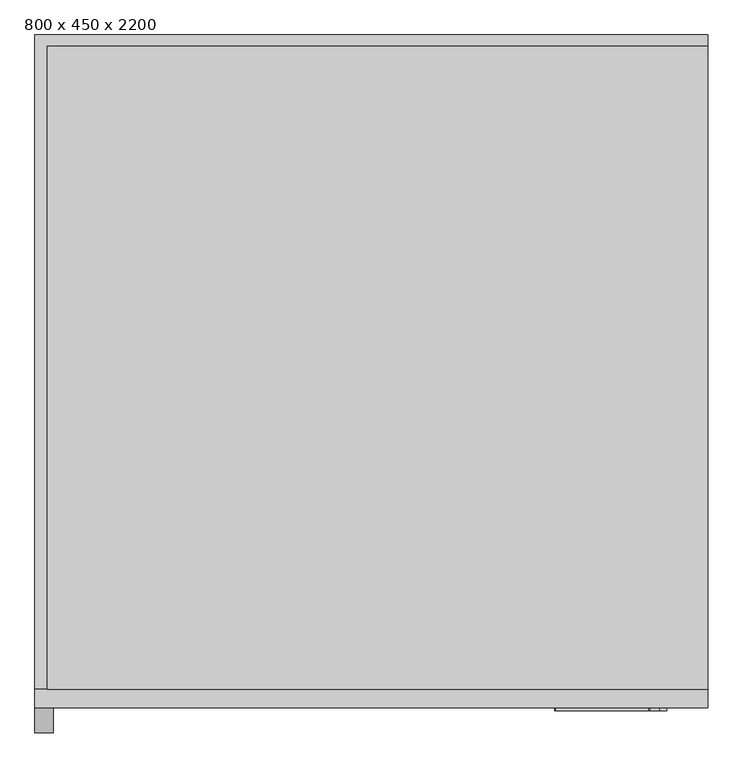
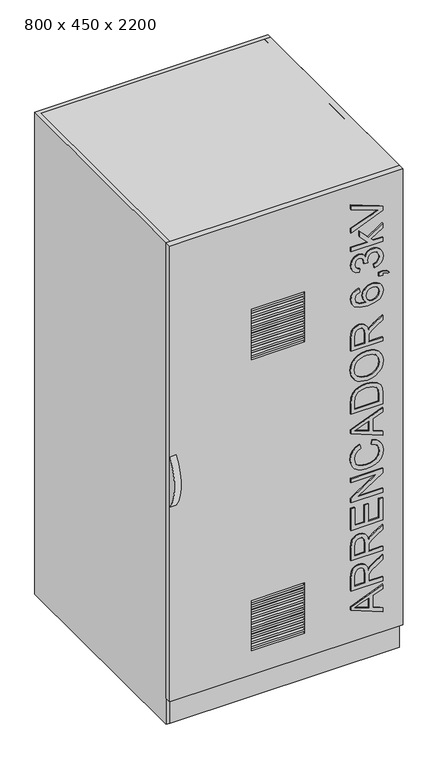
"""IFC4 building model written with IfcOpenShell, lengths in millimetres: furniture geometry, Arrencador MT Solcon : 800 x 450 x 2200."""

from ifc_helpers import new_model, si_unit, point, frame, frame_2d, origin, origin_with_axes, place, context, project, spatial, polyline, circle_curve, trimmed, segment, composite_curve, outline, extrude, source, transform, mapped, element, save


def furniture_800_x_450_x_2200_c90feb4c(model_context):
    return source(origin(), model_context, "Body", "SweptSolid", [
        extrude(outline(polyline([(230.467247, 610.9826), (250.3696629, 610.9826), (267.5865403, 563.8937046), (329.6482329, 563.8937046), (346.9018984, 610.9826), (366.8043144, 610.9826), (306.6556082, 460.2981348), (290.6159532, 460.2981348), (230.467247, 610.9826)]), holes=[polyline([(274.5027218, 545.0581465), (289.2547898, 504.775068), (298.6357807, 479.1336929), (309.1939939, 508.0124296), (322.7688395, 545.0581465), (274.5027218, 545.0581465)])]), frame((0.0, -5.0, 0.0), z_axis=(0.0, 1.0, 0.0), x_axis=(0.0, 0.0, 1.0)), (0.0, 0.0, 1.0), 5.0),
        extrude(outline(polyline([(386.9274595, 610.9826), (405.7630177, 610.9826), (405.7630177, 545.0581465), (428.498125, 545.0581465), (439.4242202, 545.7203341), (448.3821468, 549.3071835), (458.3333548, 559.0744505), (472.4968116, 579.7494186), (492.1049219, 610.9826), (513.9939006, 610.9826), (488.8675604, 570.1476985), (473.6004576, 550.7603174), (462.8950915, 542.7037017), (481.4501396, 537.7097036), (494.4409726, 528.6873977), (502.0975166, 516.381745), (504.649698, 501.5377064), (503.1091921, 489.6045342), (498.4876745, 478.7474168), (491.2863845, 469.9918254), (482.0065612, 464.3632308), (451.8586317, 460.2981348), (386.9274595, 460.2981348), (386.9274595, 610.9826)]), holes=[polyline([(405.7630177, 526.2225883), (405.7630177, 479.1336929), (452.667972, 479.1336929), (467.5717914, 480.7615708), (477.8494946, 485.6452043), (483.8229785, 493.0488294), (485.8141398, 502.2366822), (481.6386792, 515.0205816), (469.4249969, 523.5554439), (447.9222943, 526.2225883), (405.7630177, 526.2225883)])]), frame((0.0, -5.0, 0.0), z_axis=(0.0, 1.0, 0.0), x_axis=(0.0, 0.0, 1.0)), (0.0, 0.0, 1.0), 5.0),
        extrude(outline(polyline([(537.6119247, 610.9826), (556.4474829, 610.9826), (556.4474829, 545.0581465), (579.1825902, 545.0581465), (590.1086854, 545.7203341), (599.066612, 549.3071835), (609.01782, 559.0744505), (623.1812768, 579.7494186), (642.7893871, 610.9826), (664.6783659, 610.9826), (639.5520256, 570.1476985), (624.2849228, 550.7603174), (613.5795567, 542.7037017), (632.1346049, 537.7097036), (645.1254378, 528.6873977), (652.7819818, 516.381745), (655.3341632, 501.5377064), (653.7936573, 489.6045342), (649.1721398, 478.7474168), (641.9708497, 469.9918254), (632.6910264, 464.3632308), (602.5430969, 460.2981348), (537.6119247, 460.2981348), (537.6119247, 610.9826)]), holes=[polyline([(556.4474829, 526.2225883), (556.4474829, 479.1336929), (603.3524373, 479.1336929), (618.2562566, 480.7615708), (628.5339598, 485.6452043), (634.5074437, 493.0488294), (636.498605, 502.2366822), (632.3231444, 515.0205816), (620.1094621, 523.5554439), (598.6067595, 526.2225883), (556.4474829, 526.2225883)])]), frame((0.0, -5.0, 0.0), z_axis=(0.0, 1.0, 0.0), x_axis=(0.0, 0.0, 1.0)), (0.0, 0.0, 1.0), 5.0),
        extrude(outline(polyline([(688.29639, 610.9826), (798.9552941, 610.9826), (798.9552941, 592.1470419), (707.1319481, 592.1470419), (707.1319481, 542.7037017), (791.8919598, 542.7037017), (791.8919598, 523.8681436), (707.1319481, 523.8681436), (707.1319481, 479.1336929), (796.6008493, 479.1336929), (796.6008493, 460.2981348), (688.29639, 460.2981348), (688.29639, 610.9826)])), frame((0.0, -5.0, 0.0), z_axis=(0.0, 1.0, 0.0), x_axis=(0.0, 0.0, 1.0)), (0.0, 0.0, 1.0), 5.0),
        extrude(outline(polyline([(827.2086313, 610.9826), (846.0441895, 610.9826), (846.0441895, 491.5681044), (924.7709365, 610.9826), (944.9308698, 610.9826), (944.9308698, 460.2981348), (926.0953116, 460.2981348), (926.0953116, 579.6758422), (847.3685647, 460.2981348), (827.2086313, 460.2981348), (827.2086313, 610.9826)])), frame((0.0, -5.0, 0.0), z_axis=(0.0, 1.0, 0.0), x_axis=(0.0, 0.0, 1.0)), (0.0, 0.0, 1.0), 5.0),
        extrude(outline(polyline([(1083.8431112, 557.4189815), (1077.7500656, 573.550607), (1067.8586385, 585.157284), (1054.7574409, 592.165436), (1039.0350842, 594.5014866), (1025.5476105, 592.7862368), (1013.0442212, 587.6404874), (1002.6147666, 579.0274502), (995.3490972, 566.910337), (991.0862646, 551.8639634), (989.6653204, 534.463145), (994.4661804, 506.4673252), (1001.0282755, 494.272037), (1011.1128407, 484.8358639), (1024.4025778, 478.7934021), (1040.5801885, 476.7792482), (1054.6148867, 478.5956655), (1066.0376226, 484.0449176), (1074.958761, 493.4672952), (1081.4886664, 507.2030892), (1100.3242246, 502.7149288), (1092.0054929, 483.8057943), (1079.0422511, 469.6791257), (1061.967928, 460.8775489), (1041.3159525, 457.94369), (1022.3884239, 460.2107628), (1005.1163642, 467.0119812), (990.5528357, 478.1817983), (979.7509006, 493.5546672), (973.0600468, 512.5281811), (970.8297622, 534.4999332), (972.8025294, 555.3312512), (978.720831, 574.7830117), (988.4145216, 591.3285044), (1001.7134557, 603.4410191), (1019.0636903, 610.8630384), (1040.9112823, 613.3370448), (1062.432379, 610.0674936), (1080.3482322, 600.2588399), (1093.9874572, 584.2237834), (1102.6786693, 562.2750239), (1083.8431112, 557.4189815)])), frame((0.0, -5.0, 0.0), z_axis=(0.0, 1.0, 0.0), x_axis=(0.0, 0.0, 1.0)), (0.0, 0.0, 1.0), 5.0),
        extrude(outline(polyline([(1111.0295906, 610.9826), (1130.9320066, 610.9826), (1148.1488839, 563.8937046), (1210.2105765, 563.8937046), (1227.4642421, 610.9826), (1247.366658, 610.9826), (1187.2179518, 460.2981348), (1171.1782968, 460.2981348), (1111.0295906, 610.9826)]), holes=[polyline([(1155.0650654, 545.0581465), (1169.8171334, 504.775068), (1179.1981243, 479.1336929), (1189.7563376, 508.0124296), (1203.3311832, 545.0581465), (1155.0650654, 545.0581465)])]), frame((0.0, -5.0, 0.0), z_axis=(0.0, 1.0, 0.0), x_axis=(0.0, 0.0, 1.0)), (0.0, 0.0, 1.0), 5.0),
        extrude(outline(polyline([(1267.4898032, 610.9826), (1321.9731266, 610.9826), (1346.198156, 608.407426), (1364.2059797, 600.847451), (1377.9647663, 587.1806349), (1388.2654622, 565.2364739), (1392.2753759, 534.831027), (1390.7946509, 515.7931338), (1386.3524758, 498.9993207), (1378.9304565, 484.7254993), (1368.510199, 473.247581), (1346.3637029, 462.4686386), (1319.4715291, 460.2981348), (1267.4898032, 460.2981348), (1267.4898032, 610.9826)]), holes=[polyline([(1286.3253613, 592.1470419), (1286.3253613, 479.1336929), (1319.1404353, 479.1336929), (1345.8486681, 482.1503253), (1356.4942534, 488.4411074), (1365.4015962, 498.8521679), (1371.4302624, 514.0089061), (1373.4398178, 534.5367214), (1369.3379335, 563.0291819), (1357.8784094, 581.7359814), (1343.8988936, 589.4247151), (1319.6554701, 592.1470419), (1286.3253613, 592.1470419)])]), frame((0.0, -5.0, 0.0), z_axis=(0.0, 1.0, 0.0), x_axis=(0.0, 0.0, 1.0)), (0.0, 0.0, 1.0), 5.0),
        extrude(outline(polyline([(1411.1109341, 537.6269302), (1413.2630437, 556.8993482), (1419.7193728, 575.1324996), (1430.3511624, 590.9790165), (1445.029654, 603.0915312), (1462.8535367, 610.7756664), (1482.9214995, 613.3370448), (1501.8260356, 611.0193882), (1519.3969994, 604.0664185), (1534.3789936, 592.6068944), (1545.516621, 576.7695745), (1552.428204, 557.5385432), (1554.732065, 535.8978848), (1552.5431671, 514.542335), (1545.9764735, 495.5780181), (1535.2343192, 479.7682894), (1520.5190394, 467.8765039), (1502.7963243, 460.4268935), (1483.0318641, 457.94369), (1454.1991128, 463.2319937), (1431.197291, 479.0969047), (1422.4095099, 490.6874869), (1416.1325233, 504.3060185), (1411.1109341, 537.6269302)]), holes=[polyline([(1429.9464922, 537.8108712), (1433.8736325, 509.6265118), (1445.6550534, 490.8507345), (1462.8811278, 480.2971198), (1483.1422287, 476.7792482), (1497.7241513, 478.6048626), (1510.7885607, 484.0817058), (1521.6180869, 492.878684), (1529.4953601, 504.6647034), (1534.2962202, 519.0764806), (1535.8965068, 535.750732), (1532.1579061, 560.6839342), (1520.9421037, 579.1975956), (1503.93216, 590.6755139), (1482.8111349, 594.5014866), (1461.9936125, 590.7123021), (1445.0112599, 579.3447484), (1433.7126842, 561.38291), (1429.9464922, 537.8108712)])]), frame((0.0, -5.0, 0.0), z_axis=(0.0, 1.0, 0.0), x_axis=(0.0, 0.0, 1.0)), (0.0, 0.0, 1.0), 5.0),
        extrude(outline(polyline([(1580.6309575, 610.9826), (1599.4665156, 610.9826), (1599.4665156, 545.0581465), (1622.2016229, 545.0581465), (1633.1277182, 545.7203341), (1642.0856447, 549.3071835), (1652.0368527, 559.0744505), (1666.2003095, 579.7494186), (1685.8084199, 610.9826), (1707.6973986, 610.9826), (1682.5710583, 570.1476985), (1667.3039555, 550.7603174), (1656.5985895, 542.7037017), (1675.1536376, 537.7097036), (1688.1444705, 528.6873977), (1695.8010146, 516.381745), (1698.3531959, 501.5377064), (1696.8126901, 489.6045342), (1692.1911725, 478.7474168), (1684.9898824, 469.9918254), (1675.7100591, 464.3632308), (1645.5621296, 460.2981348), (1580.6309575, 460.2981348), (1580.6309575, 610.9826)]), holes=[polyline([(1599.4665156, 526.2225883), (1599.4665156, 479.1336929), (1646.37147, 479.1336929), (1661.2752893, 480.7615708), (1671.5529926, 485.6452043), (1677.5264765, 493.0488294), (1679.5176378, 502.2366822), (1675.3421771, 515.0205816), (1663.1284949, 523.5554439), (1641.6257923, 526.2225883), (1599.4665156, 526.2225883)])]), frame((0.0, -5.0, 0.0), z_axis=(0.0, 1.0, 0.0), x_axis=(0.0, 0.0, 1.0)), (0.0, 0.0, 1.0), 5.0),
        extrude(outline(polyline([(1879.6454431, 500.3236959), (1875.01013, 483.5942621), (1865.7395037, 470.9299244), (1852.5049489, 462.9560822), (1835.9778503, 460.2981348), (1814.1164627, 464.5931571), (1797.2398762, 477.478224), (1784.8790412, 503.1287961), (1780.7587628, 540.6435625), (1784.4697725, 574.0104595), (1795.6028013, 596.414473), (1812.6219421, 609.1064018), (1833.9912875, 613.3370448), (1847.0602954, 611.7413566), (1858.6761694, 606.9542922), (1868.3974511, 599.1643909), (1875.7826822, 588.5601924), (1880.4455865, 576.0568031), (1881.9998879, 562.5693294), (1878.698147, 543.2647218), (1868.7929243, 527.8780573), (1854.1880091, 517.8072877), (1836.7871907, 514.4503645), (1816.2041931, 519.3615891), (1799.594321, 534.3895686), (1801.0428563, 514.8504361), (1804.947004, 500.8203366), (1817.8044797, 483.6954297), (1834.8006279, 479.1336929), (1845.1289149, 481.0926646), (1853.6729743, 486.9695794), (1860.809885, 502.6781406), (1879.6454431, 500.3236959)]), holes=[polyline([(1799.594321, 562.2750239), (1801.9349702, 550.5349897), (1808.9569178, 541.287356), (1819.3357885, 535.286281), (1831.7472074, 533.2859226), (1844.8943902, 535.286281), (1854.8318026, 541.287356), (1861.081198, 550.7649159), (1863.1643297, 563.1947288), (1861.0536068, 576.1441751), (1854.721438, 586.0769889), (1844.9495725, 592.3953622), (1832.5197596, 594.5014866), (1815.5420055, 590.4363906), (1803.9537226, 578.5905903), (1799.594321, 562.2750239)])]), frame((0.0, -5.0, 0.0), z_axis=(0.0, 1.0, 0.0), x_axis=(0.0, 0.0, 1.0)), (0.0, 0.0, 1.0), 5.0),
        extrude(outline(polyline([(1907.8987804, 610.9826), (1917.2797712, 610.9826), (1914.8149619, 626.3968556), (1907.8987804, 634.5270477), (1912.6076699, 641.590382), (1923.3498242, 630.2412225), (1926.7343385, 610.9826), (1926.7343385, 592.1470419), (1907.8987804, 592.1470419), (1907.8987804, 610.9826)])), frame((0.0, -5.0, 0.0), z_axis=(0.0, 1.0, 0.0), x_axis=(0.0, 0.0, 1.0)), (0.0, 0.0, 1.0), 5.0),
        extrude(outline(polyline([(1957.3421205, 570.9570389), (1962.0050248, 587.9807783), (1972.3149177, 601.5280327), (1987.1405621, 610.3847918), (2005.3507209, 613.3370448), (2025.4830631, 609.878954), (2041.8078266, 599.5046818), (2052.6235573, 584.1640026), (2056.2288008, 565.806691), (2054.426179, 552.3238159), (2049.0183137, 541.3057501), (2040.2811163, 533.1939521), (2028.4904984, 528.4298803), (2043.9415422, 515.9586807), (2049.1654665, 498.5946505), (2043.6656307, 479.5935454), (2027.7731285, 465.4668768), (2005.0564153, 460.2981348), (1988.6120901, 462.919294), (1975.1108209, 470.7827717), (1965.2423864, 483.4103211), (1959.6965653, 500.3236959), (1978.5321234, 502.6781406), (1981.8706525, 492.3774448), (1987.7659615, 485.0198049), (1995.8409713, 480.6052209), (2005.7186029, 479.1336929), (2015.5778404, 480.5914253), (2023.450515, 484.9646226), (2028.61006, 491.5635059), (2030.3299084, 499.6982965), (2027.9570695, 509.4655634), (2020.8385529, 516.3265627), (1999.464609, 521.734428), (1996.4479766, 521.5136988), (1994.3510492, 540.3492569), (2007.5580129, 538.2891178), (2019.4038131, 540.2158997), (2028.968745, 545.9962456), (2035.2871182, 554.7196474), (2037.3932427, 565.4755972), (2035.2687241, 576.8063627), (2028.8951686, 586.1505653), (2018.9255665, 592.4137563), (2006.0129085, 594.5014866), (1995.0086383, 592.9839734), (1986.570345, 588.4314337), (1980.394526, 580.4391974), (1976.1776787, 568.6025942), (1957.3421205, 570.9570389)])), frame((0.0, -5.0, 0.0), z_axis=(0.0, 1.0, 0.0), x_axis=(0.0, 0.0, 1.0)), (0.0, 0.0, 1.0), 5.0),
        extrude(outline(polyline([(2077.4188037, 610.9826), (2096.2543619, 610.9826), (2096.2543619, 566.542455), (2108.2841031, 554.8805957), (2144.8883617, 610.9826), (2166.887705, 610.9826), (2121.7853724, 541.7839967), (2164.5332602, 500.3236959), (2138.4872149, 500.3236959), (2096.2543619, 541.2689619), (2096.2543619, 460.2981348), (2077.4188037, 460.2981348), (2077.4188037, 610.9826)])), frame((0.0, -5.0, 0.0), z_axis=(0.0, 1.0, 0.0), x_axis=(0.0, 0.0, 1.0)), (0.0, 0.0, 1.0), 5.0),
        extrude(outline(polyline([(2230.2369845, 610.9826), (2249.6979421, 610.9826), (2307.1243215, 460.2981348), (2286.9643882, 460.2981348), (2246.7180979, 568.8601116), (2238.6982704, 593.3242642), (2230.5680783, 568.8601116), (2190.4321527, 460.2981348), (2170.2722193, 460.2981348), (2230.2369845, 610.9826)])), frame((0.0, -5.0, 0.0), z_axis=(0.0, 1.0, 0.0), x_axis=(0.0, 0.0, 1.0)), (0.0, 0.0, 1.0), 5.0),
        extrude(outline(polyline([(708.3182922, 30.0), (-371.6817078, 30.0), (-371.6817078, 50.0), (708.3182922, 50.0), (708.3182922, 30.0)])), origin_with_axes(), (0.0, 0.0, 1.0), 130.0),
        extrude(outline(composite_curve([segment(trimmed(circle_curve(frame_2d((164.9755874, 1225.0)), 206.9829568), [point((0.0, 1100.0))], [point((0.0, 1350.0))], False, "CARTESIAN"), True, "CONTINUOUS"), segment(polyline([(0.0, 1350.0), (0.0, 1100.0)]), True, "CONTINUOUS")], self_intersect=False)), frame((-391.6817078, 0.0, 0.0), z_axis=(1.0, 0.0, 0.0), x_axis=(0.0, 1.0, 0.0)), (0.0, 0.0, 1.0), 30.0),
        extrude(outline(polyline([(245.0, 0.0), (-5.0, 0.0), (-5.0, 15.0), (245.0, 15.0), (245.0, 0.0)])), frame((0.0, 0.0, 284.4444444), z_axis=(0.0, 0.0, 1.0), x_axis=(1.0, 0.0, 0.0)), (0.0, 0.0, 1.0), 10.0),
        extrude(outline(polyline([(245.0, 0.0), (-5.0, 0.0), (-5.0, 15.0), (245.0, 15.0), (245.0, 0.0)])), frame((0.0, 0.0, 308.8888889), z_axis=(0.0, 0.0, 1.0), x_axis=(1.0, 0.0, 0.0)), (0.0, 0.0, 1.0), 10.0),
        extrude(outline(polyline([(245.0, 0.0), (-5.0, 0.0), (-5.0, 15.0), (245.0, 15.0), (245.0, 0.0)])), frame((0.0, 0.0, 333.3333333), z_axis=(0.0, 0.0, 1.0), x_axis=(1.0, 0.0, 0.0)), (0.0, 0.0, 1.0), 10.0),
        extrude(outline(polyline([(245.0, 0.0), (-5.0, 0.0), (-5.0, 15.0), (245.0, 15.0), (245.0, 0.0)])), frame((0.0, 0.0, 357.7777778), z_axis=(0.0, 0.0, 1.0), x_axis=(1.0, 0.0, 0.0)), (0.0, 0.0, 1.0), 10.0),
        extrude(outline(polyline([(245.0, 0.0), (-5.0, 0.0), (-5.0, 15.0), (245.0, 15.0), (245.0, 0.0)])), frame((0.0, 0.0, 382.2222222), z_axis=(0.0, 0.0, 1.0), x_axis=(1.0, 0.0, 0.0)), (0.0, 0.0, 1.0), 10.0),
        extrude(outline(polyline([(245.0, 0.0), (-5.0, 0.0), (-5.0, 15.0), (245.0, 15.0), (245.0, 0.0)])), frame((0.0, 0.0, 406.6666667), z_axis=(0.0, 0.0, 1.0), x_axis=(1.0, 0.0, 0.0)), (0.0, 0.0, 1.0), 10.0),
        extrude(outline(polyline([(245.0, 0.0), (-5.0, 0.0), (-5.0, 15.0), (245.0, 15.0), (245.0, 0.0)])), frame((0.0, 0.0, 431.1111111), z_axis=(0.0, 0.0, 1.0), x_axis=(1.0, 0.0, 0.0)), (0.0, 0.0, 1.0), 10.0),
        extrude(outline(polyline([(245.0, 0.0), (-5.0, 0.0), (-5.0, 15.0), (245.0, 15.0), (245.0, 0.0)])), frame((0.0, 0.0, 455.5555556), z_axis=(0.0, 0.0, 1.0), x_axis=(1.0, 0.0, 0.0)), (0.0, 0.0, 1.0), 10.0),
        extrude(outline(polyline([(245.0, 0.0), (-5.0, 0.0), (-5.0, 15.0), (245.0, 15.0), (245.0, 0.0)])), frame((0.0, 0.0, 260.0), z_axis=(0.0, 0.0, 1.0), x_axis=(1.0, 0.0, 0.0)), (0.0, 0.0, 1.0), 10.0),
        extrude(outline(polyline([(245.0, 0.0), (-5.0, 0.0), (-5.0, 15.0), (245.0, 15.0), (245.0, 0.0)])), frame((0.0, 0.0, 480.0), z_axis=(0.0, 0.0, 1.0), x_axis=(1.0, 0.0, 0.0)), (0.0, 0.0, 1.0), 10.0),
        extrude(outline(polyline([(245.0, 0.0), (-5.0, 0.0), (-5.0, 15.0), (245.0, 15.0), (245.0, 0.0)])), frame((0.0, 0.0, 1734.4444444), z_axis=(0.0, 0.0, 1.0), x_axis=(1.0, 0.0, 0.0)), (0.0, 0.0, 1.0), 10.0),
        extrude(outline(polyline([(245.0, 0.0), (-5.0, 0.0), (-5.0, 15.0), (245.0, 15.0), (245.0, 0.0)])), frame((0.0, 0.0, 1758.8888889), z_axis=(0.0, 0.0, 1.0), x_axis=(1.0, 0.0, 0.0)), (0.0, 0.0, 1.0), 10.0),
        extrude(outline(polyline([(245.0, 0.0), (-5.0, 0.0), (-5.0, 15.0), (245.0, 15.0), (245.0, 0.0)])), frame((0.0, 0.0, 1783.3333333), z_axis=(0.0, 0.0, 1.0), x_axis=(1.0, 0.0, 0.0)), (0.0, 0.0, 1.0), 10.0),
        extrude(outline(polyline([(245.0, 0.0), (-5.0, 0.0), (-5.0, 15.0), (245.0, 15.0), (245.0, 0.0)])), frame((0.0, 0.0, 1807.7777778), z_axis=(0.0, 0.0, 1.0), x_axis=(1.0, 0.0, 0.0)), (0.0, 0.0, 1.0), 10.0),
        extrude(outline(polyline([(245.0, 0.0), (-5.0, 0.0), (-5.0, 15.0), (245.0, 15.0), (245.0, 0.0)])), frame((0.0, 0.0, 1832.2222222), z_axis=(0.0, 0.0, 1.0), x_axis=(1.0, 0.0, 0.0)), (0.0, 0.0, 1.0), 10.0),
        extrude(outline(polyline([(245.0, 0.0), (-5.0, 0.0), (-5.0, 15.0), (245.0, 15.0), (245.0, 0.0)])), frame((0.0, 0.0, 1856.6666667), z_axis=(0.0, 0.0, 1.0), x_axis=(1.0, 0.0, 0.0)), (0.0, 0.0, 1.0), 10.0),
        extrude(outline(polyline([(245.0, 0.0), (-5.0, 0.0), (-5.0, 15.0), (245.0, 15.0), (245.0, 0.0)])), frame((0.0, 0.0, 1881.1111111), z_axis=(0.0, 0.0, 1.0), x_axis=(1.0, 0.0, 0.0)), (0.0, 0.0, 1.0), 10.0),
        extrude(outline(polyline([(245.0, 0.0), (-5.0, 0.0), (-5.0, 15.0), (245.0, 15.0), (245.0, 0.0)])), frame((0.0, 0.0, 1905.5555556), z_axis=(0.0, 0.0, 1.0), x_axis=(1.0, 0.0, 0.0)), (0.0, 0.0, 1.0), 10.0),
        extrude(outline(polyline([(245.0, 0.0), (-5.0, 0.0), (-5.0, 15.0), (245.0, 15.0), (245.0, 0.0)])), frame((0.0, 0.0, 1710.0), z_axis=(0.0, 0.0, 1.0), x_axis=(1.0, 0.0, 0.0)), (0.0, 0.0, 1.0), 10.0),
        extrude(outline(polyline([(245.0, 0.0), (-5.0, 0.0), (-5.0, 15.0), (245.0, 15.0), (245.0, 0.0)])), frame((0.0, 0.0, 1930.0), z_axis=(0.0, 0.0, 1.0), x_axis=(1.0, 0.0, 0.0)), (0.0, 0.0, 1.0), 10.0),
        extrude(outline(polyline([(708.3182922, 1081.5101415), (708.3182922, 30.0), (-371.6817078, 30.0), (-371.6817078, 1081.5101415), (708.3182922, 1081.5101415)])), frame((0.0, 0.0, 2380.0), z_axis=(0.0, 0.0, 1.0), x_axis=(1.0, 0.0, 0.0)), (0.0, 0.0, 1.0), 20.0),
        extrude(outline(polyline([(2400.0, 708.3182922), (2400.0, -391.6817078), (130.0, -391.6817078), (130.0, 708.3182922), (2400.0, 708.3182922)]), holes=[polyline([(500.0, 245.0), (250.0, 245.0), (250.0, -5.0), (500.0, -5.0), (500.0, 245.0)]), polyline([(1950.0, 245.0), (1700.0, 245.0), (1700.0, -5.0), (1950.0, -5.0), (1950.0, 245.0)])]), frame((0.0, 0.0, 0.0), z_axis=(0.0, 1.0, 0.0), x_axis=(0.0, 0.0, 1.0)), (0.0, 0.0, 1.0), 30.0),
        extrude(outline(polyline([(708.3182922, 1100.0), (708.3182922, 30.0), (679.6167241, 30.0), (679.6167241, 1081.5101415), (-371.6817078, 1081.5101415), (-371.6817078, 30.0), (-391.6817078, 30.0), (-391.6817078, 1100.0), (708.3182922, 1100.0)])), origin_with_axes(), (0.0, 0.0, 1.0), 2400.0),
    ])


if __name__ == "__main__":
    model = new_model("IFC4")
    model_context = context("Model", 3, world=origin())
    ifc_project = project(units=[si_unit("LENGTHUNIT", "METRE", prefix="MILLI")], contexts=[model_context])
    site = spatial("IfcSite", under=ifc_project)
    building = spatial("IfcBuilding", under=site)
    placement = place(None, origin())
    furniture_800_x_450_x_2200_shape = furniture_800_x_450_x_2200_c90feb4c(model_context)
    element("IfcFurniture", 1, ObjectType="Arrencador MT Solcon : 800 x 450 x 2200", at=placement, inside=building, context=model_context, shape_type="MappedRepresentation", body=[
        mapped(furniture_800_x_450_x_2200_shape, transform((0.0, 0.0, 0.0), x_axis=(1.0, 0.0, 0.0), y_axis=(0.0, 1.0, 0.0), z_axis=(0.0, 0.0, 1.0))),
    ])
    save(model, "model.ifc")
